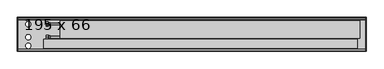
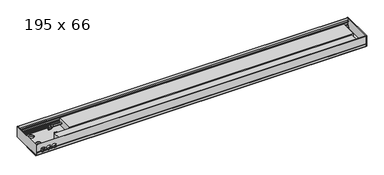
"""IFC4 building model written with IfcOpenShell, lengths in millimetres: proxy geometry, Mohlenhof_Внутрипольный конвектор_QSKM : 195 x 66."""

from ifc_helpers import new_model, si_unit, point, frame, frame_2d, origin, place, context, project, spatial, polyline, circle_curve, ellipse_curve, trimmed, segment, composite_curve, outline, extrude, source, transform, mapped, element, save
from ifc_brep_helpers import plane_surface, cylinder_surface, revolved_surface, advanced_brep


def proxy_195_x_66_bc7bac23(model_context):
    return source(origin(), model_context, "Body", "SolidModel", [
        extrude(outline(composite_curve([segment(trimmed(circle_curve(frame_2d((0.0, -273.5)), 4.5), [point((-4.5, -273.5))], [point((4.5, -273.5))], False, "CARTESIAN"), True, "CONTINUOUS"), segment(trimmed(circle_curve(frame_2d((0.0, -273.5)), 4.5), [point((4.5, -273.5))], [point((-4.5, -273.5))], False, "CARTESIAN"), True, "CONTINUOUS")], self_intersect=False)), frame((0.0, 0.0, -79.0), z_axis=(0.0, 0.0, 1.0), x_axis=(1.0, 0.0, 0.0)), (0.0, 0.0, 1.0), 7.0),
        extrude(outline(composite_curve([segment(trimmed(circle_curve(frame_2d((0.0, -273.5)), 4.0), [point((-4.0, -273.5))], [point((4.0, -273.5))], False, "CARTESIAN"), True, "CONTINUOUS"), segment(trimmed(circle_curve(frame_2d((0.0, -273.5)), 4.0), [point((4.0, -273.5))], [point((-4.0, -273.5))], False, "CARTESIAN"), True, "CONTINUOUS")], self_intersect=False)), frame((0.0, 0.0, -72.0), z_axis=(0.0, 0.0, 1.0), x_axis=(1.0, 0.0, 0.0)), (0.0, 0.0, 1.0), 1.5),
        extrude(outline(composite_curve([segment(trimmed(circle_curve(frame_2d((0.0, -121.5)), 4.5), [point((-4.5, -121.5))], [point((4.5, -121.5))], False, "CARTESIAN"), True, "CONTINUOUS"), segment(trimmed(circle_curve(frame_2d((0.0, -121.5)), 4.5), [point((4.5, -121.5))], [point((-4.5, -121.5))], False, "CARTESIAN"), True, "CONTINUOUS")], self_intersect=False)), frame((0.0, 0.0, -79.0), z_axis=(0.0, 0.0, 1.0), x_axis=(1.0, 0.0, 0.0)), (0.0, 0.0, 1.0), 7.0),
        extrude(outline(composite_curve([segment(trimmed(circle_curve(frame_2d((0.0, -121.5)), 4.0), [point((-4.0, -121.5))], [point((4.0, -121.5))], False, "CARTESIAN"), True, "CONTINUOUS"), segment(trimmed(circle_curve(frame_2d((0.0, -121.5)), 4.0), [point((4.0, -121.5))], [point((-4.0, -121.5))], False, "CARTESIAN"), True, "CONTINUOUS")], self_intersect=False)), frame((0.0, 0.0, -72.0), z_axis=(0.0, 0.0, 1.0), x_axis=(1.0, 0.0, 0.0)), (0.0, 0.0, 1.0), 1.5),
        advanced_brep(
        [(-824.0, -213.0, -41.0), (-824.0, -201.0, -41.0), (-824.0, -225.0, -41.0), (-811.5, -220.5, -41.0), (-811.5, -205.5, -41.0), (-811.5, -213.0, -41.0), (-819.0, -220.5, -41.0), (-819.0, -205.5, -41.0)],
        [
            (0, 1),
            (1, 2, circle_curve(frame((-824.0, -213.0, -41.0), z_axis=(-1.0, 0.0, 0.0), x_axis=(0.0, 1.0, 0.0)), 12.0)),
            (2, 0),
            (2, 1, circle_curve(frame((-824.0, -213.0, -41.0), z_axis=(-1.0, 0.0, 0.0), x_axis=(0.0, 1.0, 0.0)), 12.0)),
            (3, 4, circle_curve(frame((-811.5, -213.0, -41.0), z_axis=(1.0, 0.0, 0.0), x_axis=(0.0, 1.0, 0.0)), 7.5)),
            (4, 5),
            (5, 3),
            (4, 3, circle_curve(frame((-811.5, -213.0, -41.0), z_axis=(1.0, 0.0, 0.0), x_axis=(0.0, 1.0, 0.0)), 7.5)),
            (6, 7, circle_curve(frame((-819.0, -213.0, -41.0), z_axis=(1.0, 0.0, 0.0), x_axis=(0.0, 1.0, 0.0)), 7.5)),
            (7, 4),
            (3, 6),
            (7, 6, circle_curve(frame((-819.0, -213.0, -41.0), z_axis=(1.0, 0.0, 0.0), x_axis=(0.0, 1.0, 0.0)), 7.5)),
            (1, 7),
            (6, 2),
        ],
        [
            plane_surface(frame((-824.0, -213.0, -41.0), z_axis=(-1.0, 0.0, 0.0), x_axis=(0.0, 1.0, 0.0))),
            plane_surface(frame((-811.5, -213.0, -41.0), z_axis=(1.0, 0.0, 0.0), x_axis=(0.0, 1.0, 0.0))),
            cylinder_surface(frame((-824.0, -213.0, -41.0), z_axis=(-1.0, 0.0, 0.0), x_axis=(0.0, 1.0, 0.0)), 7.5),
            revolved_surface(polyline([(-819.0, -205.5, -41.0), (-824.0, -201.0, -41.0)]), (-824.0, -213.0, -41.0), (-1.0, 0.0, 0.0)),
        ],
        [
            (0, [[1, 2, 3]]),
            (0, [[-3, 4, -1]]),
            (1, [[5, 6, 7]]),
            (1, [[8, -7, -6]]),
            (2, [[9, 10, -5, 11]]),
            (2, [[12, -11, -8, -10]]),
            (3, [[-2, 13, -9, 14]]),
            (3, [[-4, -14, -12, -13]]),
        ],
    ),
        extrude(outline(polyline([(-213.0, -27.1435935), (-201.0, -34.0717968), (-201.0, -47.9282032), (-213.0, -54.8564065), (-225.0, -47.9282032), (-225.0, -34.0717968), (-213.0, -27.1435935)]), holes=[composite_curve([segment(trimmed(circle_curve(frame_2d((-213.0, -41.0)), 8.5), [point((-204.5, -41.0))], [point((-221.5, -41.0))], True, "CARTESIAN"), True, "CONTINUOUS"), segment(trimmed(circle_curve(frame_2d((-213.0, -41.0)), 8.5), [point((-221.5, -41.0))], [point((-204.5, -41.0))], True, "CARTESIAN"), True, "CONTINUOUS")], self_intersect=False)]), frame((-835.0, 0.0, 0.0), z_axis=(1.0, 0.0, 0.0), x_axis=(0.0, 1.0, 0.0)), (0.0, 0.0, 1.0), 11.0),
        advanced_brep(
        [(-824.0, -138.0, -41.0), (-824.0, -126.0, -41.0), (-824.0, -150.0, -41.0), (-811.5, -145.5, -41.0), (-811.5, -130.5, -41.0), (-811.5, -138.0, -41.0), (-819.0, -145.5, -41.0), (-819.0, -130.5, -41.0)],
        [
            (0, 1),
            (1, 2, circle_curve(frame((-824.0, -138.0, -41.0), z_axis=(-1.0, 0.0, 0.0), x_axis=(0.0, 1.0, 0.0)), 12.0)),
            (2, 0),
            (2, 1, circle_curve(frame((-824.0, -138.0, -41.0), z_axis=(-1.0, 0.0, 0.0), x_axis=(0.0, 1.0, 0.0)), 12.0)),
            (3, 4, circle_curve(frame((-811.5, -138.0, -41.0), z_axis=(1.0, 0.0, 0.0), x_axis=(0.0, 1.0, 0.0)), 7.5)),
            (4, 5),
            (5, 3),
            (4, 3, circle_curve(frame((-811.5, -138.0, -41.0), z_axis=(1.0, 0.0, 0.0), x_axis=(0.0, 1.0, 0.0)), 7.5)),
            (6, 7, circle_curve(frame((-819.0, -138.0, -41.0), z_axis=(1.0, 0.0, 0.0), x_axis=(0.0, 1.0, 0.0)), 7.5)),
            (7, 4),
            (3, 6),
            (7, 6, circle_curve(frame((-819.0, -138.0, -41.0), z_axis=(1.0, 0.0, 0.0), x_axis=(0.0, 1.0, 0.0)), 7.5)),
            (1, 7),
            (6, 2),
        ],
        [
            plane_surface(frame((-824.0, -138.0, -41.0), z_axis=(-1.0, 0.0, 0.0), x_axis=(0.0, 1.0, 0.0))),
            plane_surface(frame((-811.5, -138.0, -41.0), z_axis=(1.0, 0.0, 0.0), x_axis=(0.0, 1.0, 0.0))),
            cylinder_surface(frame((-824.0, -138.0, -41.0), z_axis=(-1.0, 0.0, 0.0), x_axis=(0.0, 1.0, 0.0)), 7.5),
            revolved_surface(polyline([(-819.0, -130.5, -41.0), (-824.0, -126.0, -41.0)]), (-824.0, -138.0, -41.0), (-1.0, 0.0, 0.0)),
        ],
        [
            (0, [[1, 2, 3]]),
            (0, [[-3, 4, -1]]),
            (1, [[5, 6, 7]]),
            (1, [[8, -7, -6]]),
            (2, [[9, 10, -5, 11]]),
            (2, [[12, -11, -8, -10]]),
            (3, [[-2, 13, -9, 14]]),
            (3, [[-4, -14, -12, -13]]),
        ],
    ),
        extrude(outline(polyline([(-138.0, -27.1435935), (-126.0, -34.0717968), (-126.0, -47.9282032), (-138.0, -54.8564065), (-150.0, -47.9282032), (-150.0, -34.0717968), (-138.0, -27.1435935)]), holes=[composite_curve([segment(trimmed(circle_curve(frame_2d((-138.0, -41.0)), 8.5), [point((-129.5, -41.0))], [point((-146.5, -41.0))], True, "CARTESIAN"), True, "CONTINUOUS"), segment(trimmed(circle_curve(frame_2d((-138.0, -41.0)), 8.5), [point((-146.5, -41.0))], [point((-129.5, -41.0))], True, "CARTESIAN"), True, "CONTINUOUS")], self_intersect=False)]), frame((-835.0, 0.0, 0.0), z_axis=(1.0, 0.0, 0.0), x_axis=(0.0, 1.0, 0.0)), (0.0, 0.0, 1.0), 11.0),
        extrude(outline(composite_curve([segment(trimmed(circle_curve(frame_2d((-975.0, -273.5)), 4.5), [point((-979.5, -273.5))], [point((-970.5, -273.5))], False, "CARTESIAN"), True, "CONTINUOUS"), segment(trimmed(circle_curve(frame_2d((-975.0, -273.5)), 4.5), [point((-970.5, -273.5))], [point((-979.5, -273.5))], False, "CARTESIAN"), True, "CONTINUOUS")], self_intersect=False)), frame((0.0, 0.0, -79.0), z_axis=(0.0, 0.0, 1.0), x_axis=(1.0, 0.0, 0.0)), (0.0, 0.0, 1.0), 7.0),
        extrude(outline(composite_curve([segment(trimmed(circle_curve(frame_2d((-975.0, -273.5)), 4.0), [point((-979.0, -273.5))], [point((-971.0, -273.5))], False, "CARTESIAN"), True, "CONTINUOUS"), segment(trimmed(circle_curve(frame_2d((-975.0, -273.5)), 4.0), [point((-971.0, -273.5))], [point((-979.0, -273.5))], False, "CARTESIAN"), True, "CONTINUOUS")], self_intersect=False)), frame((0.0, 0.0, -72.0), z_axis=(0.0, 0.0, 1.0), x_axis=(1.0, 0.0, 0.0)), (0.0, 0.0, 1.0), 1.5),
        extrude(outline(composite_curve([segment(trimmed(circle_curve(frame_2d((-975.0, -121.5)), 4.5), [point((-979.5, -121.5))], [point((-970.5, -121.5))], False, "CARTESIAN"), True, "CONTINUOUS"), segment(trimmed(circle_curve(frame_2d((-975.0, -121.5)), 4.5), [point((-970.5, -121.5))], [point((-979.5, -121.5))], False, "CARTESIAN"), True, "CONTINUOUS")], self_intersect=False)), frame((0.0, 0.0, -79.0), z_axis=(0.0, 0.0, 1.0), x_axis=(1.0, 0.0, 0.0)), (0.0, 0.0, 1.0), 7.0),
        extrude(outline(composite_curve([segment(trimmed(circle_curve(frame_2d((-975.0, -121.5)), 4.0), [point((-979.0, -121.5))], [point((-971.0, -121.5))], False, "CARTESIAN"), True, "CONTINUOUS"), segment(trimmed(circle_curve(frame_2d((-975.0, -121.5)), 4.0), [point((-971.0, -121.5))], [point((-979.0, -121.5))], False, "CARTESIAN"), True, "CONTINUOUS")], self_intersect=False)), frame((0.0, 0.0, -72.0), z_axis=(0.0, 0.0, 1.0), x_axis=(1.0, 0.0, 0.0)), (0.0, 0.0, 1.0), 1.5),
        extrude(outline(composite_curve([segment(trimmed(circle_curve(frame_2d((975.0, -273.5)), 4.5), [point((970.5, -273.5))], [point((979.5, -273.5))], False, "CARTESIAN"), True, "CONTINUOUS"), segment(trimmed(circle_curve(frame_2d((975.0, -273.5)), 4.5), [point((979.5, -273.5))], [point((970.5, -273.5))], False, "CARTESIAN"), True, "CONTINUOUS")], self_intersect=False)), frame((0.0, 0.0, -79.0), z_axis=(0.0, 0.0, 1.0), x_axis=(1.0, 0.0, 0.0)), (0.0, 0.0, 1.0), 7.0),
        extrude(outline(composite_curve([segment(trimmed(circle_curve(frame_2d((975.0, -273.5)), 4.0), [point((971.0, -273.5))], [point((979.0, -273.5))], False, "CARTESIAN"), True, "CONTINUOUS"), segment(trimmed(circle_curve(frame_2d((975.0, -273.5)), 4.0), [point((979.0, -273.5))], [point((971.0, -273.5))], False, "CARTESIAN"), True, "CONTINUOUS")], self_intersect=False)), frame((0.0, 0.0, -72.0), z_axis=(0.0, 0.0, 1.0), x_axis=(1.0, 0.0, 0.0)), (0.0, 0.0, 1.0), 1.5),
        extrude(outline(composite_curve([segment(trimmed(circle_curve(frame_2d((975.0, -121.5)), 4.5), [point((970.5, -121.5))], [point((979.5, -121.5))], False, "CARTESIAN"), True, "CONTINUOUS"), segment(trimmed(circle_curve(frame_2d((975.0, -121.5)), 4.5), [point((979.5, -121.5))], [point((970.5, -121.5))], False, "CARTESIAN"), True, "CONTINUOUS")], self_intersect=False)), frame((0.0, 0.0, -79.0), z_axis=(0.0, 0.0, 1.0), x_axis=(1.0, 0.0, 0.0)), (0.0, 0.0, 1.0), 7.0),
        extrude(outline(composite_curve([segment(trimmed(circle_curve(frame_2d((975.0, -121.5)), 4.0), [point((971.0, -121.5))], [point((979.0, -121.5))], False, "CARTESIAN"), True, "CONTINUOUS"), segment(trimmed(circle_curve(frame_2d((975.0, -121.5)), 4.0), [point((979.0, -121.5))], [point((971.0, -121.5))], False, "CARTESIAN"), True, "CONTINUOUS")], self_intersect=False)), frame((0.0, 0.0, -72.0), z_axis=(0.0, 0.0, 1.0), x_axis=(1.0, 0.0, 0.0)), (0.0, 0.0, 1.0), 1.5),
        extrude(outline(polyline([(950.0, -225.87), (950.0, -277.18), (-850.0, -277.18), (-850.0, -225.87), (950.0, -225.87)])), frame((0.0, 0.0, -62.5), z_axis=(0.0, 0.0, 1.0), x_axis=(1.0, 0.0, 0.0)), (0.0, 0.0, 1.0), 43.62),
        extrude(outline(composite_curve([segment(trimmed(circle_curve(frame_2d((-213.0, -41.0)), 5.0), [point((-218.0, -41.0))], [point((-208.0, -41.0))], False, "CARTESIAN"), True, "CONTINUOUS"), segment(trimmed(circle_curve(frame_2d((-213.0, -41.0)), 5.0), [point((-208.0, -41.0))], [point((-218.0, -41.0))], False, "CARTESIAN"), True, "CONTINUOUS")], self_intersect=False)), frame((-835.0, 0.0, 0.0), z_axis=(1.0, 0.0, 0.0), x_axis=(0.0, 1.0, 0.0)), (0.0, 0.0, 1.0), 80.0),
        extrude(outline(composite_curve([segment(trimmed(circle_curve(frame_2d((-138.0, -41.0)), 5.0), [point((-143.0, -41.0))], [point((-133.0, -41.0))], False, "CARTESIAN"), True, "CONTINUOUS"), segment(trimmed(circle_curve(frame_2d((-138.0, -41.0)), 5.0), [point((-133.0, -41.0))], [point((-143.0, -41.0))], False, "CARTESIAN"), True, "CONTINUOUS")], self_intersect=False)), frame((-835.0, 0.0, 0.0), z_axis=(1.0, 0.0, 0.0), x_axis=(0.0, 1.0, 0.0)), (0.0, 0.0, 1.0), 80.0),
        advanced_brep(
        [(998.0, -295.0, -48.5473602), (998.0, -293.5, -49.2468216), (998.0, -292.5, -49.2468216), (998.0, -292.5, -46.0008038), (998.0, -290.0, -46.0008038), (998.0, -290.0, -56.5008038), (998.0, -292.5, -56.5008038), (998.0, -292.5, -53.2468216), (998.0, -293.5, -53.2468216), (998.0, -295.0, -53.9462831), (998.0, -295.0, -66.5), (998.0, -291.0, -66.5), (998.0, -291.0, -65.2), (998.0, -293.0, -65.2), (998.0, -293.0, -62.5), (998.0, -282.0, -62.5), (998.0, -282.0, -54.9172677), (998.0, -283.4172677, -53.5), (998.0, -287.0, -53.5), (998.0, -287.0, -45.91), (998.0, -289.0, -43.91), (998.0, -289.0, -39.5), (998.0, -290.0, -39.5), (998.0, -290.0, -43.5), (998.0, -292.4956439, -43.5), (998.0, -292.4956439, -23.0), (998.0, -290.0, -23.0), (998.0, -290.0, -27.0), (998.0, -289.0, -27.0), (998.0, -289.0, -17.0), (998.0, -283.3956439, -17.0), (998.0, -283.3956439, -15.0), (998.0, -293.4, -15.0), (998.0, -293.4, 0.0), (998.0, -295.0, 0.0), (-998.0, -295.0, -48.5473602), (-998.0, -295.0, 0.0), (-998.0, -293.4, 0.0), (-998.0, -293.4, -15.0), (-998.0, -283.3956439, -15.0), (-998.0, -283.3956439, -17.0), (-998.0, -289.0, -17.0), (-998.0, -289.0, -27.0), (-998.0, -290.0, -27.0), (-998.0, -290.0, -23.0), (-998.0, -292.4956439, -23.0), (-998.0, -292.4956439, -43.5), (-998.0, -290.0, -43.5), (-998.0, -290.0, -39.5), (-998.0, -289.0, -39.5), (-998.0, -289.0, -43.91), (-998.0, -287.0, -45.91), (-998.0, -287.0, -53.5), (-998.0, -283.4172677, -53.5), (-998.0, -282.0, -54.9172677), (-998.0, -282.0, -62.5), (-998.0, -293.0, -62.5), (-998.0, -293.0, -65.2), (-998.0, -291.0, -65.2), (-998.0, -291.0, -66.5), (-998.0, -295.0, -66.5), (-998.0, -295.0, -53.9462831), (-998.0, -293.5, -53.2468216), (-998.0, -292.5, -53.2468216), (-998.0, -292.5, -56.5008038), (-998.0, -290.0, -56.5008038), (-998.0, -290.0, -46.0008038), (-998.0, -292.5, -46.0008038), (-998.0, -292.5, -49.2468216), (-998.0, -293.5, -49.2468216), (-878.7585985, -295.0, -48.5473602), (-879.155283, -293.5, -49.2468216), (-970.844717, -293.5, -49.2468216), (-971.2414015, -295.0, -48.5473602), (-938.2414015, -295.0, -48.5473602), (-944.7585985, -295.0, -48.5473602), (-945.155283, -293.5, -49.2468216), (-937.844717, -293.5, -49.2468216), (-905.2414015, -295.0, -48.5473602), (-911.7585985, -295.0, -48.5473602), (-912.155283, -293.5, -49.2468216), (-904.844717, -293.5, -49.2468216), (-879.155283, -292.5, -49.2468216), (-970.844717, -292.5, -49.2468216), (-945.155283, -292.5, -49.2468216), (-937.844717, -292.5, -49.2468216), (-912.155283, -292.5, -49.2468216), (-904.844717, -292.5, -49.2468216), (-877.6911648, -292.5, -46.0008038), (-972.3088352, -292.5, -46.0008038), (-943.6911648, -292.5, -46.0008038), (-939.3088352, -292.5, -46.0008038), (-910.6911648, -292.5, -46.0008038), (-906.3088352, -292.5, -46.0008038), (-877.6911648, -290.0, -46.0008038), (-972.3088352, -290.0, -46.0008038), (-943.6911648, -290.0, -46.0008038), (-939.3088352, -290.0, -46.0008038), (-910.6911648, -290.0, -46.0008038), (-906.3088352, -290.0, -46.0008038), (-967.328032, -292.5, -53.2468216), (-948.671968, -292.5, -53.2468216), (-934.328032, -292.5, -53.2468216), (-915.671968, -292.5, -53.2468216), (-901.328032, -292.5, -53.2468216), (-882.671968, -292.5, -53.2468216), (-882.671968, -293.5, -53.2468216), (-967.328032, -293.5, -53.2468216), (-948.671968, -293.5, -53.2468216), (-934.328032, -293.5, -53.2468216), (-915.671968, -293.5, -53.2468216), (-901.328032, -293.5, -53.2468216), (-883.6280208, -295.0, -53.9462831), (-966.3719792, -295.0, -53.9462831), (-949.6280208, -295.0, -53.9462831), (-933.3719792, -295.0, -53.9462831), (-916.6280208, -295.0, -53.9462831), (-900.3719792, -295.0, -53.9462831), (-964.7064841, -282.0, -54.9172677), (-951.2935159, -282.0, -54.9172677), (-931.7064841, -282.0, -54.9172677), (-918.2935159, -282.0, -54.9172677), (-898.7064841, -282.0, -54.9172677), (-885.2935159, -282.0, -54.9172677), (-883.0, -283.4172677, -53.5), (-967.0, -283.4172677, -53.5), (-949.0, -283.4172677, -53.5), (-934.0, -283.4172677, -53.5), (-916.0, -283.4172677, -53.5), (-901.0, -283.4172677, -53.5), (-883.0, -287.0, -53.5), (-967.0, -287.0, -53.5), (-949.0, -287.0, -53.5), (-934.0, -287.0, -53.5), (-916.0, -287.0, -53.5), (-901.0, -287.0, -53.5), (-877.6629187, -287.0, -45.91), (-972.3370813, -287.0, -45.91), (-943.6629187, -287.0, -45.91), (-939.3370813, -287.0, -45.91), (-910.6629187, -287.0, -45.91), (-906.3370813, -287.0, -45.91), (-877.1948691, -289.0, -43.91), (-972.8051309, -289.0, -43.91), (-943.1948691, -289.0, -43.91), (-939.8051309, -289.0, -43.91), (-910.1948691, -289.0, -43.91), (-906.8051309, -289.0, -43.91), (-877.0, -289.0, -41.5), (-877.1339313, -289.0, -39.5), (-972.8660687, -289.0, -39.5), (-973.0, -289.0, -41.5), (-943.0, -289.0, -41.5), (-943.1339313, -289.0, -39.5), (-939.8660687, -289.0, -39.5), (-940.0, -289.0, -41.5), (-910.0, -289.0, -41.5), (-910.1339313, -289.0, -39.5), (-906.8660687, -289.0, -39.5), (-907.0, -289.0, -41.5), (-877.1339313, -290.0, -39.5), (-972.8660687, -290.0, -39.5), (-943.1339313, -290.0, -39.5), (-939.8660687, -290.0, -39.5), (-910.1339313, -290.0, -39.5), (-906.8660687, -290.0, -39.5), (-877.0, -290.0, -41.5), (-877.1339313, -290.0, -43.5), (-972.8660687, -290.0, -43.5), (-973.0, -290.0, -41.5), (-943.0, -290.0, -41.5), (-943.1339313, -290.0, -43.5), (-939.8660687, -290.0, -43.5), (-940.0, -290.0, -41.5), (-910.0, -290.0, -41.5), (-910.1339313, -290.0, -43.5), (-906.8660687, -290.0, -43.5), (-907.0, -290.0, -41.5), (-877.1339313, -292.4956439, -43.5), (-972.8660687, -292.4956439, -43.5), (-943.1339313, -292.4956439, -43.5), (-939.8660687, -292.4956439, -43.5), (-910.1339313, -292.4956439, -43.5), (-906.8660687, -292.4956439, -43.5), (-877.0, -292.4956439, -41.5), (-907.0, -292.4956439, -41.5), (-910.0, -292.4956439, -41.5), (-940.0, -292.4956439, -41.5), (-943.0, -292.4956439, -41.5), (-973.0, -292.4956439, -41.5), (-961.8405729, -290.0, -27.0), (-954.1594271, -290.0, -27.0), (-928.8405729, -290.0, -27.0), (-921.1594271, -290.0, -27.0), (-895.8405729, -290.0, -27.0), (-888.1594271, -290.0, -27.0), (-888.1594271, -289.0, -27.0), (-961.8405729, -289.0, -27.0), (-954.1594271, -289.0, -27.0), (-928.8405729, -289.0, -27.0), (-921.1594271, -289.0, -27.0), (-895.8405729, -289.0, -27.0), (-973.0, -295.0, -41.5), (-943.0, -295.0, -41.5), (-940.0, -295.0, -41.5), (-910.0, -295.0, -41.5), (-907.0, -295.0, -41.5), (-877.0, -295.0, -41.5)],
        [
            (0, 1),
            (1, 2),
            (2, 3),
            (3, 4),
            (4, 5),
            (5, 6),
            (6, 7),
            (7, 8),
            (8, 9),
            (9, 10),
            (10, 11),
            (11, 12),
            (12, 13),
            (13, 14),
            (14, 15),
            (15, 16),
            (16, 17),
            (17, 18),
            (18, 19),
            (19, 20),
            (20, 21),
            (21, 22),
            (22, 23),
            (23, 24),
            (24, 25),
            (25, 26),
            (26, 27),
            (27, 28),
            (28, 29),
            (29, 30),
            (30, 31),
            (31, 32),
            (32, 33),
            (33, 34),
            (34, 0),
            (35, 36),
            (36, 37),
            (37, 38),
            (38, 39),
            (39, 40),
            (40, 41),
            (41, 42),
            (42, 43),
            (43, 44),
            (44, 45),
            (45, 46),
            (46, 47),
            (47, 48),
            (48, 49),
            (49, 50),
            (50, 51),
            (51, 52),
            (52, 53),
            (53, 54),
            (54, 55),
            (55, 56),
            (56, 57),
            (57, 58),
            (58, 59),
            (59, 60),
            (60, 61),
            (61, 62),
            (62, 63),
            (63, 64),
            (64, 65),
            (65, 66),
            (66, 67),
            (67, 68),
            (68, 69),
            (69, 35),
            (0, 70),
            (70, 71, ellipse_curve(frame((-892.0, -310.1131126, -41.5), z_axis=(0.0, 0.42261826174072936, 0.9063077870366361), x_axis=(0.0, -0.906307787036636, 0.4226182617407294)), 35.4930237, 15.0)),
            (71, 1),
            (69, 72),
            (72, 73, ellipse_curve(frame((-958.0, -310.1131126, -41.5), z_axis=(0.0, 0.42261826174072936, 0.9063077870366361), x_axis=(0.0, -0.906307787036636, 0.4226182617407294)), 35.4930237, 15.0)),
            (73, 35),
            (74, 75),
            (75, 76, ellipse_curve(frame((-958.0, -310.1131126, -41.5), z_axis=(0.0, 0.42261826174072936, 0.9063077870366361), x_axis=(0.0, -0.906307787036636, 0.4226182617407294)), 35.4930237, 15.0)),
            (76, 77),
            (77, 74, ellipse_curve(frame((-925.0, -310.1131126, -41.5), z_axis=(0.0, 0.42261826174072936, 0.9063077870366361), x_axis=(0.0, -0.906307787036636, 0.4226182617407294)), 35.4930237, 15.0)),
            (78, 79),
            (79, 80, ellipse_curve(frame((-925.0, -310.1131126, -41.5), z_axis=(0.0, 0.42261826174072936, 0.9063077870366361), x_axis=(0.0, -0.906307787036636, 0.4226182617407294)), 35.4930237, 15.0)),
            (80, 81),
            (81, 78, ellipse_curve(frame((-892.0, -310.1131126, -41.5), z_axis=(0.0, 0.42261826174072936, 0.9063077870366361), x_axis=(0.0, -0.906307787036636, 0.4226182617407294)), 35.4930237, 15.0)),
            (71, 82),
            (82, 2),
            (68, 83),
            (83, 72),
            (76, 84),
            (84, 85),
            (85, 77),
            (80, 86),
            (86, 87),
            (87, 81),
            (82, 88, circle_curve(frame((-892.0, -292.5, -41.5), z_axis=(0.0, -1.0, 0.0), x_axis=(1.0, 0.0, 0.0)), 15.0)),
            (88, 3),
            (67, 89),
            (89, 83, circle_curve(frame((-958.0, -292.5, -41.5), z_axis=(0.0, -1.0, 0.0), x_axis=(1.0, 0.0, 0.0)), 15.0)),
            (84, 90, circle_curve(frame((-958.0, -292.5, -41.5), z_axis=(0.0, -1.0, 0.0), x_axis=(1.0, 0.0, 0.0)), 15.0)),
            (90, 91),
            (91, 85, circle_curve(frame((-925.0, -292.5, -41.5), z_axis=(0.0, -1.0, 0.0), x_axis=(1.0, 0.0, 0.0)), 15.0)),
            (86, 92, circle_curve(frame((-925.0, -292.5, -41.5), z_axis=(0.0, -1.0, 0.0), x_axis=(1.0, 0.0, 0.0)), 15.0)),
            (92, 93),
            (93, 87, circle_curve(frame((-892.0, -292.5, -41.5), z_axis=(0.0, -1.0, 0.0), x_axis=(1.0, 0.0, 0.0)), 15.0)),
            (88, 94),
            (94, 4),
            (66, 95),
            (95, 89),
            (90, 96),
            (96, 97),
            (97, 91),
            (92, 98),
            (98, 99),
            (99, 93),
            (94, 99, circle_curve(frame((-892.0, -290.0, -41.5), z_axis=(0.0, 1.0, 0.0), x_axis=(1.0, 0.0, 0.0)), 15.0)),
            (98, 97, circle_curve(frame((-925.0, -290.0, -41.5), z_axis=(0.0, 1.0, 0.0), x_axis=(1.0, 0.0, 0.0)), 15.0)),
            (96, 95, circle_curve(frame((-958.0, -290.0, -41.5), z_axis=(0.0, 1.0, 0.0), x_axis=(1.0, 0.0, 0.0)), 15.0)),
            (65, 5),
            (64, 6),
            (63, 100),
            (100, 101, circle_curve(frame((-958.0, -292.5, -41.5), z_axis=(0.0, -1.0, 0.0), x_axis=(1.0, 0.0, 0.0)), 15.0)),
            (101, 102),
            (102, 103, circle_curve(frame((-925.0, -292.5, -41.5), z_axis=(0.0, -1.0, 0.0), x_axis=(1.0, 0.0, 0.0)), 15.0)),
            (103, 104),
            (104, 105, circle_curve(frame((-892.0, -292.5, -41.5), z_axis=(0.0, -1.0, 0.0), x_axis=(1.0, 0.0, 0.0)), 15.0)),
            (105, 7),
            (105, 106),
            (106, 8),
            (62, 107),
            (107, 100),
            (101, 108),
            (108, 109),
            (109, 102),
            (103, 110),
            (110, 111),
            (111, 104),
            (106, 112, ellipse_curve(frame((-892.0, -268.3088597, -41.5), z_axis=(0.0, 0.4226182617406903, -0.9063077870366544), x_axis=(0.0, -0.9063077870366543, -0.42261826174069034)), 35.4930237, 15.0)),
            (112, 9),
            (61, 113),
            (113, 107, ellipse_curve(frame((-958.0, -268.3088597, -41.5), z_axis=(0.0, 0.4226182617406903, -0.9063077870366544), x_axis=(0.0, -0.9063077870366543, -0.42261826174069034)), 35.4930237, 15.0)),
            (108, 114, ellipse_curve(frame((-958.0, -268.3088597, -41.5), z_axis=(0.0, 0.4226182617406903, -0.9063077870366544), x_axis=(0.0, -0.9063077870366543, -0.42261826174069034)), 35.4930237, 15.0)),
            (114, 115),
            (115, 109, ellipse_curve(frame((-925.0, -268.3088597, -41.5), z_axis=(0.0, 0.4226182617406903, -0.9063077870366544), x_axis=(0.0, -0.9063077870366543, -0.42261826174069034)), 35.4930237, 15.0)),
            (110, 116, ellipse_curve(frame((-925.0, -268.3088597, -41.5), z_axis=(0.0, 0.4226182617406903, -0.9063077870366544), x_axis=(0.0, -0.9063077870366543, -0.42261826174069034)), 35.4930237, 15.0)),
            (116, 117),
            (117, 111, ellipse_curve(frame((-892.0, -268.3088597, -41.5), z_axis=(0.0, 0.4226182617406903, -0.9063077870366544), x_axis=(0.0, -0.9063077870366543, -0.42261826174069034)), 35.4930237, 15.0)),
            (112, 117, circle_curve(frame((-892.0, -295.0, -41.5), z_axis=(0.0, 1.0, 0.0), x_axis=(1.0, 0.0, 0.0)), 15.0)),
            (116, 115, circle_curve(frame((-925.0, -295.0, -41.5), z_axis=(0.0, 1.0, 0.0), x_axis=(1.0, 0.0, 0.0)), 15.0)),
            (114, 113, circle_curve(frame((-958.0, -295.0, -41.5), z_axis=(0.0, 1.0, 0.0), x_axis=(1.0, 0.0, 0.0)), 15.0)),
            (60, 10),
            (59, 11),
            (58, 12),
            (57, 13),
            (56, 14),
            (55, 15),
            (54, 118),
            (118, 119, circle_curve(frame((-958.0, -282.0, -41.5), z_axis=(0.0, -1.0, 0.0), x_axis=(1.0, 0.0, 0.0)), 15.0)),
            (119, 120),
            (120, 121, circle_curve(frame((-925.0, -282.0, -41.5), z_axis=(0.0, -1.0, 0.0), x_axis=(1.0, 0.0, 0.0)), 15.0)),
            (121, 122),
            (122, 123, circle_curve(frame((-892.0, -282.0, -41.5), z_axis=(0.0, -1.0, 0.0), x_axis=(1.0, 0.0, 0.0)), 15.0)),
            (123, 16),
            (123, 124, ellipse_curve(frame((-892.0, -295.4172677, -41.5), z_axis=(0.0, -0.7071067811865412, -0.7071067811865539), x_axis=(0.0, -0.7071067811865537, 0.7071067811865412)), 21.2132034, 15.0)),
            (124, 17),
            (53, 125),
            (125, 118, ellipse_curve(frame((-958.0, -295.4172677, -41.5), z_axis=(0.0, -0.7071067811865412, -0.7071067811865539), x_axis=(0.0, -0.7071067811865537, 0.7071067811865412)), 21.2132034, 15.0)),
            (119, 126, ellipse_curve(frame((-958.0, -295.4172677, -41.5), z_axis=(0.0, -0.7071067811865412, -0.7071067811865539), x_axis=(0.0, -0.7071067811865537, 0.7071067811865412)), 21.2132034, 15.0)),
            (126, 127),
            (127, 120, ellipse_curve(frame((-925.0, -295.4172677, -41.5), z_axis=(0.0, -0.7071067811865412, -0.7071067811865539), x_axis=(0.0, -0.7071067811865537, 0.7071067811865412)), 21.2132034, 15.0)),
            (121, 128, ellipse_curve(frame((-925.0, -295.4172677, -41.5), z_axis=(0.0, -0.7071067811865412, -0.7071067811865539), x_axis=(0.0, -0.7071067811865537, 0.7071067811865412)), 21.2132034, 15.0)),
            (128, 129),
            (129, 122, ellipse_curve(frame((-892.0, -295.4172677, -41.5), z_axis=(0.0, -0.7071067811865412, -0.7071067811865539), x_axis=(0.0, -0.7071067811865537, 0.7071067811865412)), 21.2132034, 15.0)),
            (124, 130),
            (130, 18),
            (52, 131),
            (131, 125),
            (126, 132),
            (132, 133),
            (133, 127),
            (128, 134),
            (134, 135),
            (135, 129),
            (130, 136, circle_curve(frame((-892.0, -287.0, -41.5), z_axis=(0.0, -1.0, 0.0), x_axis=(1.0, 0.0, 0.0)), 15.0)),
            (136, 19),
            (51, 137),
            (137, 131, circle_curve(frame((-958.0, -287.0, -41.5), z_axis=(0.0, -1.0, 0.0), x_axis=(1.0, 0.0, 0.0)), 15.0)),
            (132, 138, circle_curve(frame((-958.0, -287.0, -41.5), z_axis=(0.0, -1.0, 0.0), x_axis=(1.0, 0.0, 0.0)), 15.0)),
            (138, 139),
            (139, 133, circle_curve(frame((-925.0, -287.0, -41.5), z_axis=(0.0, -1.0, 0.0), x_axis=(1.0, 0.0, 0.0)), 15.0)),
            (134, 140, circle_curve(frame((-925.0, -287.0, -41.5), z_axis=(0.0, -1.0, 0.0), x_axis=(1.0, 0.0, 0.0)), 15.0)),
            (140, 141),
            (141, 135, circle_curve(frame((-892.0, -287.0, -41.5), z_axis=(0.0, -1.0, 0.0), x_axis=(1.0, 0.0, 0.0)), 15.0)),
            (136, 142, ellipse_curve(frame((-892.0, -291.41, -41.5), z_axis=(0.0, -0.7071067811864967, -0.7071067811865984), x_axis=(0.0, -0.7071067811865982, 0.7071067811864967)), 21.2132034, 15.0)),
            (142, 20),
            (50, 143),
            (143, 137, ellipse_curve(frame((-958.0, -291.41, -41.5), z_axis=(0.0, -0.7071067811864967, -0.7071067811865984), x_axis=(0.0, -0.7071067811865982, 0.7071067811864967)), 21.2132034, 15.0)),
            (138, 144, ellipse_curve(frame((-958.0, -291.41, -41.5), z_axis=(0.0, -0.7071067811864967, -0.7071067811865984), x_axis=(0.0, -0.7071067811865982, 0.7071067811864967)), 21.2132034, 15.0)),
            (144, 145),
            (145, 139, ellipse_curve(frame((-925.0, -291.41, -41.5), z_axis=(0.0, -0.7071067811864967, -0.7071067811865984), x_axis=(0.0, -0.7071067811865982, 0.7071067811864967)), 21.2132034, 15.0)),
            (140, 146, ellipse_curve(frame((-925.0, -291.41, -41.5), z_axis=(0.0, -0.7071067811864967, -0.7071067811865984), x_axis=(0.0, -0.7071067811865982, 0.7071067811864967)), 21.2132034, 15.0)),
            (146, 147),
            (147, 141, ellipse_curve(frame((-892.0, -291.41, -41.5), z_axis=(0.0, -0.7071067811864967, -0.7071067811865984), x_axis=(0.0, -0.7071067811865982, 0.7071067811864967)), 21.2132034, 15.0)),
            (142, 148, circle_curve(frame((-892.0, -289.0, -41.5), z_axis=(0.0, -1.0, 0.0), x_axis=(1.0, 0.0, 0.0)), 15.0)),
            (148, 149, circle_curve(frame((-892.0, -289.0, -41.5), z_axis=(0.0, -1.0, 0.0), x_axis=(1.0, 0.0, 0.0)), 15.0)),
            (149, 21),
            (49, 150),
            (150, 151, circle_curve(frame((-958.0, -289.0, -41.5), z_axis=(0.0, -1.0, 0.0), x_axis=(1.0, 0.0, 0.0)), 15.0)),
            (151, 143, circle_curve(frame((-958.0, -289.0, -41.5), z_axis=(0.0, -1.0, 0.0), x_axis=(1.0, 0.0, 0.0)), 15.0)),
            (144, 152, circle_curve(frame((-958.0, -289.0, -41.5), z_axis=(0.0, -1.0, 0.0), x_axis=(1.0, 0.0, 0.0)), 15.0)),
            (152, 153, circle_curve(frame((-958.0, -289.0, -41.5), z_axis=(0.0, -1.0, 0.0), x_axis=(1.0, 0.0, 0.0)), 15.0)),
            (153, 154),
            (154, 155, circle_curve(frame((-925.0, -289.0, -41.5), z_axis=(0.0, -1.0, 0.0), x_axis=(1.0, 0.0, 0.0)), 15.0)),
            (155, 145, circle_curve(frame((-925.0, -289.0, -41.5), z_axis=(0.0, -1.0, 0.0), x_axis=(1.0, 0.0, 0.0)), 15.0)),
            (146, 156, circle_curve(frame((-925.0, -289.0, -41.5), z_axis=(0.0, -1.0, 0.0), x_axis=(1.0, 0.0, 0.0)), 15.0)),
            (156, 157, circle_curve(frame((-925.0, -289.0, -41.5), z_axis=(0.0, -1.0, 0.0), x_axis=(1.0, 0.0, 0.0)), 15.0)),
            (157, 158),
            (158, 159, circle_curve(frame((-892.0, -289.0, -41.5), z_axis=(0.0, -1.0, 0.0), x_axis=(1.0, 0.0, 0.0)), 15.0)),
            (159, 147, circle_curve(frame((-892.0, -289.0, -41.5), z_axis=(0.0, -1.0, 0.0), x_axis=(1.0, 0.0, 0.0)), 15.0)),
            (149, 160),
            (160, 22),
            (48, 161),
            (161, 150),
            (153, 162),
            (162, 163),
            (163, 154),
            (157, 164),
            (164, 165),
            (165, 158),
            (160, 166, circle_curve(frame((-892.0, -290.0, -41.5), z_axis=(0.0, 1.0, 0.0), x_axis=(1.0, 0.0, 0.0)), 15.0)),
            (166, 167, circle_curve(frame((-892.0, -290.0, -41.5), z_axis=(0.0, 1.0, 0.0), x_axis=(1.0, 0.0, 0.0)), 15.0)),
            (167, 23),
            (47, 168),
            (168, 169, circle_curve(frame((-958.0, -290.0, -41.5), z_axis=(0.0, 1.0, 0.0), x_axis=(1.0, 0.0, 0.0)), 15.0)),
            (169, 161, circle_curve(frame((-958.0, -290.0, -41.5), z_axis=(0.0, 1.0, 0.0), x_axis=(1.0, 0.0, 0.0)), 15.0)),
            (162, 170, circle_curve(frame((-958.0, -290.0, -41.5), z_axis=(0.0, 1.0, 0.0), x_axis=(1.0, 0.0, 0.0)), 15.0)),
            (170, 171, circle_curve(frame((-958.0, -290.0, -41.5), z_axis=(0.0, 1.0, 0.0), x_axis=(1.0, 0.0, 0.0)), 15.0)),
            (171, 172),
            (172, 173, circle_curve(frame((-925.0, -290.0, -41.5), z_axis=(0.0, 1.0, 0.0), x_axis=(1.0, 0.0, 0.0)), 15.0)),
            (173, 163, circle_curve(frame((-925.0, -290.0, -41.5), z_axis=(0.0, 1.0, 0.0), x_axis=(1.0, 0.0, 0.0)), 15.0)),
            (164, 174, circle_curve(frame((-925.0, -290.0, -41.5), z_axis=(0.0, 1.0, 0.0), x_axis=(1.0, 0.0, 0.0)), 15.0)),
            (174, 175, circle_curve(frame((-925.0, -290.0, -41.5), z_axis=(0.0, 1.0, 0.0), x_axis=(1.0, 0.0, 0.0)), 15.0)),
            (175, 176),
            (176, 177, circle_curve(frame((-892.0, -290.0, -41.5), z_axis=(0.0, 1.0, 0.0), x_axis=(1.0, 0.0, 0.0)), 15.0)),
            (177, 165, circle_curve(frame((-892.0, -290.0, -41.5), z_axis=(0.0, 1.0, 0.0), x_axis=(1.0, 0.0, 0.0)), 15.0)),
            (167, 178),
            (178, 24),
            (46, 179),
            (179, 168),
            (171, 180),
            (180, 181),
            (181, 172),
            (175, 182),
            (182, 183),
            (183, 176),
            (178, 184, circle_curve(frame((-892.0, -292.4956439, -41.5), z_axis=(0.0, -1.0, 0.0), x_axis=(1.0, 0.0, 0.0)), 15.0)),
            (184, 185, circle_curve(frame((-892.0, -292.4956439, -41.5), z_axis=(0.0, -1.0, 0.0), x_axis=(1.0, 0.0, 0.0)), 15.0)),
            (185, 183, circle_curve(frame((-892.0, -292.4956439, -41.5), z_axis=(0.0, -1.0, 0.0), x_axis=(1.0, 0.0, 0.0)), 15.0)),
            (182, 186, circle_curve(frame((-925.0, -292.4956439, -41.5), z_axis=(0.0, -1.0, 0.0), x_axis=(1.0, 0.0, 0.0)), 15.0)),
            (186, 187, circle_curve(frame((-925.0, -292.4956439, -41.5), z_axis=(0.0, -1.0, 0.0), x_axis=(1.0, 0.0, 0.0)), 15.0)),
            (187, 181, circle_curve(frame((-925.0, -292.4956439, -41.5), z_axis=(0.0, -1.0, 0.0), x_axis=(1.0, 0.0, 0.0)), 15.0)),
            (180, 188, circle_curve(frame((-958.0, -292.4956439, -41.5), z_axis=(0.0, -1.0, 0.0), x_axis=(1.0, 0.0, 0.0)), 15.0)),
            (188, 189, circle_curve(frame((-958.0, -292.4956439, -41.5), z_axis=(0.0, -1.0, 0.0), x_axis=(1.0, 0.0, 0.0)), 15.0)),
            (189, 179, circle_curve(frame((-958.0, -292.4956439, -41.5), z_axis=(0.0, -1.0, 0.0), x_axis=(1.0, 0.0, 0.0)), 15.0)),
            (45, 25),
            (44, 26),
            (43, 190),
            (190, 191, circle_curve(frame((-958.0, -290.0, -41.5), z_axis=(0.0, 1.0, 0.0), x_axis=(1.0, 0.0, 0.0)), 15.0)),
            (191, 192),
            (192, 193, circle_curve(frame((-925.0, -290.0, -41.5), z_axis=(0.0, 1.0, 0.0), x_axis=(1.0, 0.0, 0.0)), 15.0)),
            (193, 194),
            (194, 195, circle_curve(frame((-892.0, -290.0, -41.5), z_axis=(0.0, 1.0, 0.0), x_axis=(1.0, 0.0, 0.0)), 15.0)),
            (195, 27),
            (195, 196),
            (196, 28),
            (42, 197),
            (197, 190),
            (191, 198),
            (198, 199),
            (199, 192),
            (193, 200),
            (200, 201),
            (201, 194),
            (196, 201, circle_curve(frame((-892.0, -289.0, -41.5), z_axis=(0.0, -1.0, 0.0), x_axis=(1.0, 0.0, 0.0)), 15.0)),
            (200, 199, circle_curve(frame((-925.0, -289.0, -41.5), z_axis=(0.0, -1.0, 0.0), x_axis=(1.0, 0.0, 0.0)), 15.0)),
            (198, 197, circle_curve(frame((-958.0, -289.0, -41.5), z_axis=(0.0, -1.0, 0.0), x_axis=(1.0, 0.0, 0.0)), 15.0)),
            (41, 29),
            (40, 30),
            (39, 31),
            (38, 32),
            (37, 33),
            (36, 34),
            (73, 202, circle_curve(frame((-958.0, -295.0, -41.5), z_axis=(0.0, 1.0, 0.0), x_axis=(1.0, 0.0, 0.0)), 15.0)),
            (202, 203, circle_curve(frame((-958.0, -295.0, -41.5), z_axis=(0.0, 1.0, 0.0), x_axis=(1.0, 0.0, 0.0)), 15.0)),
            (203, 75, circle_curve(frame((-958.0, -295.0, -41.5), z_axis=(0.0, 1.0, 0.0), x_axis=(1.0, 0.0, 0.0)), 15.0)),
            (74, 204, circle_curve(frame((-925.0, -295.0, -41.5), z_axis=(0.0, 1.0, 0.0), x_axis=(1.0, 0.0, 0.0)), 15.0)),
            (204, 205, circle_curve(frame((-925.0, -295.0, -41.5), z_axis=(0.0, 1.0, 0.0), x_axis=(1.0, 0.0, 0.0)), 15.0)),
            (205, 79, circle_curve(frame((-925.0, -295.0, -41.5), z_axis=(0.0, 1.0, 0.0), x_axis=(1.0, 0.0, 0.0)), 15.0)),
            (78, 206, circle_curve(frame((-892.0, -295.0, -41.5), z_axis=(0.0, 1.0, 0.0), x_axis=(1.0, 0.0, 0.0)), 15.0)),
            (206, 207, circle_curve(frame((-892.0, -295.0, -41.5), z_axis=(0.0, 1.0, 0.0), x_axis=(1.0, 0.0, 0.0)), 15.0)),
            (207, 70, circle_curve(frame((-892.0, -295.0, -41.5), z_axis=(0.0, 1.0, 0.0), x_axis=(1.0, 0.0, 0.0)), 15.0)),
            (151, 169),
            (189, 202),
            (203, 188),
            (170, 152),
            (155, 173),
            (187, 204),
            (205, 186),
            (174, 156),
            (159, 177),
            (185, 206),
            (207, 184),
            (166, 148),
        ],
        [
            plane_surface(frame((998.0, -293.0, -62.5), z_axis=(1.0, 0.0, 0.0), x_axis=(0.0, 0.0, 1.0))),
            plane_surface(frame((-998.0, -293.0, -62.5), z_axis=(-1.0, 0.0, 0.0), x_axis=(0.0, 0.0, 1.0))),
            plane_surface(frame((998.0, -295.0, -48.5473602), z_axis=(0.0, -0.42261826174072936, -0.9063077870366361), x_axis=(-1.0, 0.0, 0.0))),
            plane_surface(frame((998.0, -293.5, -49.2468216), z_axis=(0.0, 0.0, -1.0), x_axis=(-1.0, 0.0, 0.0))),
            plane_surface(frame((998.0, -292.5, -49.2468216), z_axis=(0.0, 1.0, 0.0), x_axis=(-1.0, 0.0, 0.0))),
            plane_surface(frame((998.0, -292.5, -46.0008038), z_axis=(0.0, 0.0, -1.0), x_axis=(-1.0, 0.0, 0.0))),
            plane_surface(frame((998.0, -290.0, -46.0008038), z_axis=(0.0, -1.0, 0.0), x_axis=(-1.0, 0.0, 0.0))),
            plane_surface(frame((998.0, -290.0, -56.5008038), z_axis=(0.0, 0.0, 1.0), x_axis=(-1.0, 0.0, 0.0))),
            plane_surface(frame((998.0, -292.5, -56.5008038), z_axis=(0.0, 1.0, 0.0), x_axis=(-1.0, 0.0, 0.0))),
            plane_surface(frame((998.0, -292.5, -53.2468216), z_axis=(0.0, 0.0, 1.0), x_axis=(-1.0, 0.0, 0.0))),
            plane_surface(frame((998.0, -293.5, -53.2468216), z_axis=(0.0, -0.4226182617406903, 0.9063077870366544), x_axis=(-1.0, 0.0, 0.0))),
            plane_surface(frame((998.0, -295.0, -53.9462831), z_axis=(0.0, -1.0, 0.0), x_axis=(-1.0, 0.0, 0.0))),
            plane_surface(frame((998.0, -295.0, -66.5), z_axis=(0.0, 0.0, -1.0), x_axis=(-1.0, 0.0, 0.0))),
            plane_surface(frame((998.0, -291.0, -66.5), z_axis=(0.0, 1.0, 0.0), x_axis=(-1.0, 0.0, 0.0))),
            plane_surface(frame((998.0, -291.0, -65.2), z_axis=(0.0, 0.0, 1.0), x_axis=(-1.0, 0.0, 0.0))),
            plane_surface(frame((998.0, -293.0, -65.2), z_axis=(0.0, 1.0, 0.0), x_axis=(-1.0, 0.0, 0.0))),
            plane_surface(frame((998.0, -293.0, -62.5), z_axis=(0.0, 0.0, -1.0), x_axis=(-1.0, 0.0, 0.0))),
            plane_surface(frame((998.0, -282.0, -62.5), z_axis=(0.0, 1.0, 0.0), x_axis=(-1.0, 0.0, 0.0))),
            plane_surface(frame((998.0, -282.0, -54.9172677), z_axis=(0.0, 0.7071067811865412, 0.7071067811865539), x_axis=(-1.0, 0.0, 0.0))),
            plane_surface(frame((998.0, -283.4172677, -53.5), z_axis=(0.0, 0.0, 1.0), x_axis=(-1.0, 0.0, 0.0))),
            plane_surface(frame((998.0, -287.0, -53.5), z_axis=(0.0, 1.0, 0.0), x_axis=(-1.0, 0.0, 0.0))),
            plane_surface(frame((998.0, -287.0, -45.91), z_axis=(0.0, 0.7071067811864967, 0.7071067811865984), x_axis=(-1.0, 0.0, 0.0))),
            plane_surface(frame((998.0, -289.0, -43.91), z_axis=(0.0, 1.0, 0.0), x_axis=(-1.0, 0.0, 0.0))),
            plane_surface(frame((998.0, -289.0, -39.5), z_axis=(0.0, 0.0, 1.0), x_axis=(-1.0, 0.0, 0.0))),
            plane_surface(frame((998.0, -290.0, -39.5), z_axis=(0.0, -1.0, 0.0), x_axis=(-1.0, 0.0, 0.0))),
            plane_surface(frame((998.0, -290.0, -43.5), z_axis=(0.0, 0.0, 1.0), x_axis=(-1.0, 0.0, 0.0))),
            plane_surface(frame((998.0, -292.4956439, -43.5), z_axis=(0.0, 1.0, 0.0), x_axis=(-1.0, 0.0, 0.0))),
            plane_surface(frame((998.0, -292.4956439, -23.0), z_axis=(0.0, 0.0, -1.0), x_axis=(-1.0, 0.0, 0.0))),
            plane_surface(frame((998.0, -290.0, -23.0), z_axis=(0.0, -1.0, 0.0), x_axis=(-1.0, 0.0, 0.0))),
            plane_surface(frame((998.0, -290.0, -27.0), z_axis=(0.0, 0.0, -1.0), x_axis=(-1.0, 0.0, 0.0))),
            plane_surface(frame((998.0, -289.0, -27.0), z_axis=(0.0, 1.0, 0.0), x_axis=(-1.0, 0.0, 0.0))),
            plane_surface(frame((998.0, -289.0, -17.0), z_axis=(0.0, 0.0, -1.0), x_axis=(-1.0, 0.0, 0.0))),
            plane_surface(frame((998.0, -283.3956439, -17.0), z_axis=(0.0, 1.0, 0.0), x_axis=(-1.0, 0.0, 0.0))),
            plane_surface(frame((998.0, -283.3956439, -15.0), z_axis=(0.0, 0.0, 1.0), x_axis=(-1.0, 0.0, 0.0))),
            plane_surface(frame((998.0, -293.4, -15.0), z_axis=(0.0, 1.0, 0.0), x_axis=(-1.0, 0.0, 0.0))),
            plane_surface(frame((998.0, -293.4, 0.0), z_axis=(0.0, 0.0, 1.0), x_axis=(-1.0, 0.0, 0.0))),
            plane_surface(frame((998.0, -295.0, 0.0), z_axis=(0.0, -1.0, 0.0), x_axis=(-1.0, 0.0, 0.0))),
            revolved_surface(polyline([(-943.0, -300.47646346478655, -41.5), (-943.0, -236.1412559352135, -41.5)]), (-958.0, -263.0, -41.5), (0.0, -1.0, 0.0)),
            revolved_surface(polyline([(-943.0, -342.2807163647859, -41.5), (-943.0, -276.41000002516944, -41.5)]), (-958.0, -263.0, -41.5), (0.0, -1.0, 0.0)),
            revolved_surface(polyline([(-943.0, -290.0, -41.5), (-943.0, -289.0, -41.5)]), (-958.0, -263.0, -41.5), (0.0, -1.0, 0.0)),
            revolved_surface(polyline([(-943.0, -295.0, -41.5), (-943.0, -292.4956439, -41.5)]), (-958.0, -263.0, -41.5), (0.0, -1.0, 0.0)),
            revolved_surface(polyline([(-910.0, -300.47646346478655, -41.5), (-910.0, -236.1412559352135, -41.5)]), (-925.0, 0.0, -41.5), (0.0, -1.0, 0.0)),
            revolved_surface(polyline([(-910.0, -342.2807163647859, -41.5), (-910.0, -276.41000002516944, -41.5)]), (-925.0, 0.0, -41.5), (0.0, -1.0, 0.0)),
            revolved_surface(polyline([(-910.0, -290.0, -41.5), (-910.0, -289.0, -41.5)]), (-925.0, 0.0, -41.5), (0.0, -1.0, 0.0)),
            revolved_surface(polyline([(-910.0, -295.0, -41.5), (-910.0, -292.4956439, -41.5)]), (-925.0, 0.0, -41.5), (0.0, -1.0, 0.0)),
            revolved_surface(polyline([(-877.0, -300.47646346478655, -41.5), (-877.0, -236.1412559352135, -41.5)]), (-892.0, 0.0, -41.5), (0.0, -1.0, 0.0)),
            revolved_surface(polyline([(-877.0, -342.2807163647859, -41.5), (-877.0, -276.41000002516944, -41.5)]), (-892.0, 0.0, -41.5), (0.0, -1.0, 0.0)),
            revolved_surface(polyline([(-877.0, -290.0, -41.5), (-877.0, -289.0, -41.5)]), (-892.0, 0.0, -41.5), (0.0, -1.0, 0.0)),
            revolved_surface(polyline([(-877.0, -295.0, -41.5), (-877.0, -292.4956439, -41.5)]), (-892.0, 0.0, -41.5), (0.0, -1.0, 0.0)),
        ],
        [
            (0, [[1, 2, 3, 4, 5, 6, 7, 8, 9, 10, 11, 12, 13, 14, 15, 16, 17, 18, 19, 20, 21, 22, 23, 24, 25, 26, 27, 28, 29, 30, 31, 32, 33, 34, 35]]),
            (1, [[36, 37, 38, 39, 40, 41, 42, 43, 44, 45, 46, 47, 48, 49, 50, 51, 52, 53, 54, 55, 56, 57, 58, 59, 60, 61, 62, 63, 64, 65, 66, 67, 68, 69, 70]]),
            (2, [[-1, 71, 72, 73]]),
            (2, [[-70, 74, 75, 76]]),
            (2, [[77, 78, 79, 80]]),
            (2, [[81, 82, 83, 84]]),
            (3, [[-2, -73, 85, 86]]),
            (3, [[-69, 87, 88, -74]]),
            (3, [[-79, 89, 90, 91]]),
            (3, [[-83, 92, 93, 94]]),
            (4, [[-3, -86, 95, 96]]),
            (4, [[-68, 97, 98, -87]]),
            (4, [[-90, 99, 100, 101]]),
            (4, [[-93, 102, 103, 104]]),
            (5, [[-4, -96, 105, 106]]),
            (5, [[-67, 107, 108, -97]]),
            (5, [[-100, 109, 110, 111]]),
            (5, [[-103, 112, 113, 114]]),
            (6, [[-5, -106, 115, -113, 116, -110, 117, -107, -66, 118]]),
            (7, [[-6, -118, -65, 119]]),
            (8, [[-7, -119, -64, 120, 121, 122, 123, 124, 125, 126]]),
            (9, [[-8, -126, 127, 128]]),
            (9, [[-63, 129, 130, -120]]),
            (9, [[-122, 131, 132, 133]]),
            (9, [[-124, 134, 135, 136]]),
            (10, [[-9, -128, 137, 138]]),
            (10, [[-62, 139, 140, -129]]),
            (10, [[-132, 141, 142, 143]]),
            (10, [[-135, 144, 145, 146]]),
            (11, [[-10, -138, 147, -145, 148, -142, 149, -139, -61, 150]]),
            (12, [[-11, -150, -60, 151]]),
            (13, [[-12, -151, -59, 152]]),
            (14, [[-13, -152, -58, 153]]),
            (15, [[-14, -153, -57, 154]]),
            (16, [[-15, -154, -56, 155]]),
            (17, [[-16, -155, -55, 156, 157, 158, 159, 160, 161, 162]]),
            (18, [[-17, -162, 163, 164]]),
            (18, [[-54, 165, 166, -156]]),
            (18, [[-158, 167, 168, 169]]),
            (18, [[-160, 170, 171, 172]]),
            (19, [[-18, -164, 173, 174]]),
            (19, [[-53, 175, 176, -165]]),
            (19, [[-168, 177, 178, 179]]),
            (19, [[-171, 180, 181, 182]]),
            (20, [[-19, -174, 183, 184]]),
            (20, [[-52, 185, 186, -175]]),
            (20, [[-178, 187, 188, 189]]),
            (20, [[-181, 190, 191, 192]]),
            (21, [[-20, -184, 193, 194]]),
            (21, [[-51, 195, 196, -185]]),
            (21, [[-188, 197, 198, 199]]),
            (21, [[-191, 200, 201, 202]]),
            (22, [[-21, -194, 203, 204, 205]]),
            (22, [[-50, 206, 207, 208, -195]]),
            (22, [[-198, 209, 210, 211, 212, 213]]),
            (22, [[-201, 214, 215, 216, 217, 218]]),
            (23, [[-22, -205, 219, 220]]),
            (23, [[-49, 221, 222, -206]]),
            (23, [[-211, 223, 224, 225]]),
            (23, [[-216, 226, 227, 228]]),
            (24, [[-23, -220, 229, 230, 231]]),
            (24, [[-48, 232, 233, 234, -221]]),
            (24, [[-224, 235, 236, 237, 238, 239]]),
            (24, [[-227, 240, 241, 242, 243, 244]]),
            (25, [[-24, -231, 245, 246]]),
            (25, [[-47, 247, 248, -232]]),
            (25, [[-237, 249, 250, 251]]),
            (25, [[-242, 252, 253, 254]]),
            (26, [[-25, -246, 255, 256, 257, -253, 258, 259, 260, -250, 261, 262, 263, -247, -46, 264]]),
            (27, [[-26, -264, -45, 265]]),
            (28, [[-27, -265, -44, 266, 267, 268, 269, 270, 271, 272]]),
            (29, [[-28, -272, 273, 274]]),
            (29, [[-43, 275, 276, -266]]),
            (29, [[-268, 277, 278, 279]]),
            (29, [[-270, 280, 281, 282]]),
            (30, [[-29, -274, 283, -281, 284, -278, 285, -275, -42, 286]]),
            (31, [[-30, -286, -41, 287]]),
            (32, [[-31, -287, -40, 288]]),
            (33, [[-32, -288, -39, 289]]),
            (34, [[-33, -289, -38, 290]]),
            (35, [[-34, -290, -37, 291]]),
            (36, [[-35, -291, -36, -76, 292, 293, 294, -77, 295, 296, 297, -81, 298, 299, 300, -71]]),
            (37, [[-121, -130, -140, -149, -141, -131]]),
            (38, [[301, -233, -248, -263, 302, -292, -75, -88, -98, -108, -117, -109, -99, -89, -78, -294, 303, -261, -249, -236, 304, -209, -197, -187, -177, -167, -157, -166, -176, -186, -196, -208]]),
            (39, [[-267, -276, -285, -277]]),
            (39, [[-301, -207, -222, -234]]),
            (40, [[-302, -262, -303, -293]]),
            (39, [[-304, -235, -223, -210]]),
            (41, [[-123, -133, -143, -148, -144, -134]]),
            (42, [[305, -238, -251, -260, 306, -295, -80, -91, -101, -111, -116, -112, -102, -92, -82, -297, 307, -258, -252, -241, 308, -214, -200, -190, -180, -170, -159, -169, -179, -189, -199, -213]]),
            (43, [[-269, -279, -284, -280]]),
            (43, [[-305, -212, -225, -239]]),
            (44, [[-306, -259, -307, -296]]),
            (43, [[-308, -240, -226, -215]]),
            (45, [[-125, -136, -146, -147, -137, -127]]),
            (46, [[309, -243, -254, -257, 310, -298, -84, -94, -104, -114, -115, -105, -95, -85, -72, -300, 311, -255, -245, -230, 312, -203, -193, -183, -173, -163, -161, -172, -182, -192, -202, -218]]),
            (47, [[-271, -282, -283, -273]]),
            (47, [[-309, -217, -228, -244]]),
            (48, [[-310, -256, -311, -299]]),
            (47, [[-312, -229, -219, -204]]),
        ],
    ),
        extrude(outline(polyline([(-100.0, -48.5473602), (-101.5, -49.2468216), (-102.5, -49.2468216), (-102.5, -46.0008038), (-105.0, -46.0008038), (-105.0, -56.5008038), (-102.5, -56.5008038), (-102.5, -53.2468216), (-101.5, -53.2468216), (-100.0, -53.9462831), (-100.0, -66.5), (-104.0, -66.5), (-104.0, -65.2), (-102.0, -65.2), (-102.0, -62.5), (-113.0, -62.5), (-113.0, -54.9172677), (-111.5827323, -53.5), (-108.0, -53.5), (-108.0, -45.91), (-106.0, -43.91), (-106.0, -39.5), (-105.0, -39.5), (-105.0, -43.5), (-102.5043561, -43.5), (-102.5043561, -23.0), (-105.0, -23.0), (-105.0, -27.0), (-106.0, -27.0), (-106.0, -17.0), (-111.6043561, -17.0), (-111.6043561, -15.0), (-101.6, -15.0), (-101.6, 0.0), (-100.0, 0.0), (-100.0, -48.5473602)])), frame((-998.0, 0.0, 0.0), z_axis=(1.0, 0.0, 0.0), x_axis=(0.0, 1.0, 0.0)), (0.0, 0.0, 1.0), 1996.0),
        extrude(outline(polyline([(998.0, -104.499991), (998.0, -290.5), (-998.0, -290.5), (-998.0, -104.499991), (998.0, -104.499991)]), holes=[composite_curve([segment(trimmed(circle_curve(frame_2d((-938.0, -138.0)), 15.0), [point((-953.0, -138.0))], [point((-923.0, -138.0))], True, "CARTESIAN"), True, "CONTINUOUS"), segment(trimmed(circle_curve(frame_2d((-938.0, -138.0)), 15.0), [point((-923.0, -138.0))], [point((-953.0, -138.0))], True, "CARTESIAN"), True, "CONTINUOUS")], self_intersect=False), composite_curve([segment(trimmed(circle_curve(frame_2d((-938.0, -213.0)), 15.0), [point((-953.0, -213.0))], [point((-923.0, -213.0))], True, "CARTESIAN"), True, "CONTINUOUS"), segment(trimmed(circle_curve(frame_2d((-938.0, -213.0)), 15.0), [point((-923.0, -213.0))], [point((-953.0, -213.0))], True, "CARTESIAN"), True, "CONTINUOUS")], self_intersect=False), composite_curve([segment(trimmed(circle_curve(frame_2d((-938.0, -263.0)), 15.0), [point((-953.0, -263.0))], [point((-923.0, -263.0))], True, "CARTESIAN"), True, "CONTINUOUS"), segment(trimmed(circle_curve(frame_2d((-938.0, -263.0)), 15.0), [point((-923.0, -263.0))], [point((-953.0, -263.0))], True, "CARTESIAN"), True, "CONTINUOUS")], self_intersect=False)]), frame((0.0, 0.0, -71.5), z_axis=(0.0, 0.0, 1.0), x_axis=(1.0, 0.0, 0.0)), (0.0, 0.0, 1.0), 6.3),
        extrude(outline(polyline([(998.0, -102.0), (998.0, -293.0), (-998.0, -293.0), (-998.0, -102.0), (998.0, -102.0)]), holes=[composite_curve([segment(trimmed(circle_curve(frame_2d((-938.0, -138.0)), 15.0), [point((-953.0, -138.0))], [point((-923.0, -138.0))], True, "CARTESIAN"), True, "CONTINUOUS"), segment(trimmed(circle_curve(frame_2d((-938.0, -138.0)), 15.0), [point((-923.0, -138.0))], [point((-953.0, -138.0))], True, "CARTESIAN"), True, "CONTINUOUS")], self_intersect=False), composite_curve([segment(trimmed(circle_curve(frame_2d((-938.0, -213.0)), 15.0), [point((-953.0, -213.0))], [point((-923.0, -213.0))], True, "CARTESIAN"), True, "CONTINUOUS"), segment(trimmed(circle_curve(frame_2d((-938.0, -213.0)), 15.0), [point((-923.0, -213.0))], [point((-953.0, -213.0))], True, "CARTESIAN"), True, "CONTINUOUS")], self_intersect=False), composite_curve([segment(trimmed(circle_curve(frame_2d((-938.0, -263.0)), 15.0), [point((-953.0, -263.0))], [point((-923.0, -263.0))], True, "CARTESIAN"), True, "CONTINUOUS"), segment(trimmed(circle_curve(frame_2d((-938.0, -263.0)), 15.0), [point((-923.0, -263.0))], [point((-953.0, -263.0))], True, "CARTESIAN"), True, "CONTINUOUS")], self_intersect=False)]), frame((0.0, 0.0, -65.2), z_axis=(0.0, 0.0, 1.0), x_axis=(1.0, 0.0, 0.0)), (0.0, 0.0, 1.0), 2.7),
        extrude(outline(polyline([(963.0, -119.25), (963.0, -219.25), (-755.0, -219.25), (-755.0, -119.25), (963.0, -119.25)])), frame((0.0, 0.0, -62.5), z_axis=(0.0, 0.0, 1.0), x_axis=(1.0, 0.0, 0.0)), (0.0, 0.0, 1.0), 43.0),
        extrude(outline(polyline([(1000.0, -295.0), (998.0, -295.0), (998.0, -100.0), (1000.0, -100.0), (1000.0, -295.0)])), frame((0.0, 0.0, -66.5), z_axis=(0.0, 0.0, 1.0), x_axis=(1.0, 0.0, 0.0)), (0.0, 0.0, 1.0), 66.5),
        extrude(outline(polyline([(-998.0, -100.0), (-998.0, -295.0), (-1000.0, -295.0), (-1000.0, -100.0), (-998.0, -100.0)])), frame((0.0, 0.0, -66.5), z_axis=(0.0, 0.0, 1.0), x_axis=(1.0, 0.0, 0.0)), (0.0, 0.0, 1.0), 66.5),
    ])


if __name__ == "__main__":
    model = new_model("IFC4")
    model_context = context("Model", 3, world=origin())
    ifc_project = project(units=[si_unit("LENGTHUNIT", "METRE", prefix="MILLI")], contexts=[model_context])
    site = spatial("IfcSite", under=ifc_project)
    building = spatial("IfcBuilding", under=site)
    placement = place(None, origin())
    proxy_195_x_66_shape = proxy_195_x_66_bc7bac23(model_context)
    element("IfcBuildingElementProxy", 1, Name="Mohlenhof_Внутрипольный конвектор_QSKM : 195 x 66", ObjectType="Mohlenhof_Внутрипольный конвектор_QSKM : 195 x 66", at=placement, inside=building, context=model_context, shape_type="MappedRepresentation", body=[
        mapped(proxy_195_x_66_shape, transform((0.0, 0.0, 0.0), x_axis=(1.0, 0.0, 0.0), y_axis=(0.0, 1.0, 0.0), z_axis=(0.0, 0.0, 1.0))),
    ])
    save(model, "model.ifc")
